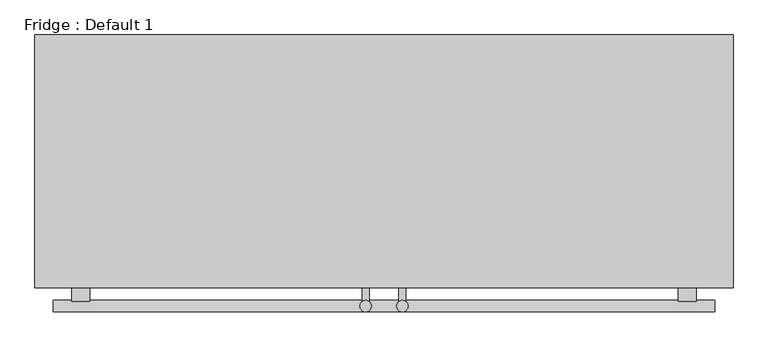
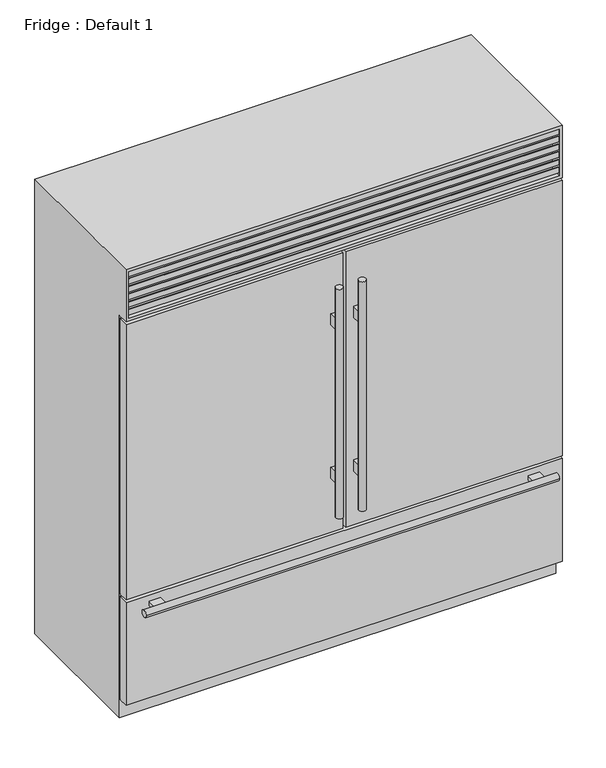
"""IFC4 building model written with IfcOpenShell, lengths in millimetres: proxy geometry, Fridge : Default 1."""

import ifcopenshell
import ifcopenshell.guid

model = None  # the IFC model being written
_history = None  # IfcOwnerHistory: only IFC2X3 demands one
_inside = {}  # id of a spatial element -> (the spatial element, [elements in it])
_under = {}  # id of a project, library or spatial element -> (it, [spatial elements below it])
_declared = {}  # id of a project -> (the project, [libraries it declares])
_typed = {}  # id of a type object -> (the type object, [elements of that type])
_made_of = {}  # id of a material, layer set ... -> (it, [elements and type objects made of it])


def new_model(schema):
    """Start an empty IFC model of exactly this schema.

    Asked for "IFC4X3", IfcOpenShell would pick the latest addendum, in which some entities
    have other attributes; the version numbers below select the first issue.
    IFC2X3 requires an IfcOwnerHistory on every rooted entity: one is made here for all.
    """
    global model, _history
    if schema == "IFC4X3":
        model = ifcopenshell.file(schema_version=(4, 3, 0, 0))
    else:
        model = ifcopenshell.file(schema=schema)
    _inside.clear()
    _under.clear()
    _declared.clear()
    _typed.clear()
    _made_of.clear()
    _history = None
    if model.schema == "IFC2X3":
        org = make("IfcOrganization", Name="unknown")
        user = make(
            "IfcPersonAndOrganization",
            ThePerson=make("IfcPerson", FamilyName="unknown"),
            TheOrganization=org,
        )
        app = make(
            "IfcApplication",
            ApplicationDeveloper=org,
            Version="unknown",
            ApplicationFullName="unknown",
            ApplicationIdentifier="unknown",
        )
        _history = make(
            "IfcOwnerHistory",
            OwningUser=user,
            OwningApplication=app,
            ChangeAction="ADDED",
            CreationDate=0,
        )
    return model


def make(cls, **values):
    """One entity of the class cls with the attributes given. An attribute that is None is left unset."""
    return model.create_entity(
        cls, **{name: value for name, value in values.items() if value is not None}
    )


def rooted(cls, **values):
    """An entity with a GlobalId (a new one), such as an element, a storey or a relation."""
    return make(cls, GlobalId=ifcopenshell.guid.new(), OwnerHistory=_history, **values)


def si_unit(unit_type, name, prefix=None):
    """IfcSIUnit, for example si_unit("LENGTHUNIT", "METRE", prefix="MILLI")."""
    return make("IfcSIUnit", UnitType=unit_type, Prefix=prefix, Name=name)


def assignment(units):
    """IfcUnitAssignment: the units of a project."""
    return None if units is None else make("IfcUnitAssignment", Units=units)


def point(xyz):
    """IfcCartesianPoint."""
    return None if xyz is None else make("IfcCartesianPoint", Coordinates=xyz)


def direction(xyz):
    """IfcDirection."""
    return None if xyz is None else make("IfcDirection", DirectionRatios=xyz)


def frame(location, z_axis=None, x_axis=None):
    """IfcAxis2Placement3D, a coordinate frame: its origin and axes. An axis left out is left unset."""
    return make(
        "IfcAxis2Placement3D",
        Location=point(location),
        Axis=direction(z_axis),
        RefDirection=direction(x_axis),
    )


def origin():
    """The frame at (0, 0, 0) with its axes left unset."""
    return frame((0.0, 0.0, 0.0))


def place(relative_to, where):
    """IfcLocalPlacement: puts the frame where relative to a parent placement (None: the world)."""
    return make(
        "IfcLocalPlacement", PlacementRelTo=relative_to, RelativePlacement=where
    )


def context(
    kind, dimensions, precision=None, world=None, true_north=None, identifier=None
):
    """IfcGeometricRepresentationContext, for example the 3D "Model" context."""
    return make(
        "IfcGeometricRepresentationContext",
        ContextIdentifier=identifier,
        ContextType=kind,
        CoordinateSpaceDimension=dimensions,
        Precision=precision,
        WorldCoordinateSystem=world,
        TrueNorth=true_north,
    )


def project(units=None, contexts=None):
    """IfcProject with its units and contexts."""
    return rooted(
        "IfcProject",
        Name="project",
        RepresentationContexts=contexts,
        UnitsInContext=assignment(units),
    )


def spatial(cls, under=None, at=None, **own):
    """A site, building, storey or space (cls), placed at a placement, below another one or the project."""
    s = rooted(cls, ObjectPlacement=at, **own)
    if under is not None:
        _under.setdefault(under.id(), (under, []))[1].append(s)
    return s


def polyline(points):
    """IfcPolyline through the points."""
    return make("IfcPolyline", Points=[point(p) for p in points])


def circle_curve(where, radius):
    """IfcCircle in the frame where."""
    return make("IfcCircle", Position=where, Radius=radius)


def ellipse_curve(where, semi_axis1, semi_axis2):
    """IfcEllipse in the frame where."""
    return make(
        "IfcEllipse", Position=where, SemiAxis1=semi_axis1, SemiAxis2=semi_axis2
    )


def outline(outer, holes=None, kind="AREA"):
    """IfcArbitraryClosedProfileDef: a profile drawn as a closed curve; with holes, ...WithVoids."""
    if holes is None:
        return make("IfcArbitraryClosedProfileDef", ProfileType=kind, OuterCurve=outer)
    return make(
        "IfcArbitraryProfileDefWithVoids",
        ProfileType=kind,
        OuterCurve=outer,
        InnerCurves=holes,
    )


def extrude(swept, where, along, depth):
    """IfcExtrudedAreaSolid: the profile swept, set in the frame where, extruded along a direction by depth."""
    return make(
        "IfcExtrudedAreaSolid",
        SweptArea=swept,
        Position=where,
        ExtrudedDirection=direction(along),
        Depth=depth,
    )


def faces_of(points, faces, orient=None, outer=None):
    """IfcFace entities. A face is a list of loops; a loop is a list of indices into points, from 0.

    orient and outer hold one flag for each loop. By default every Orientation is true, the
    first loop of a face is its IfcFaceOuterBound and the others are IfcFaceBound.
    """
    made = []
    for i, loops in enumerate(faces):
        bounds = []
        for j, loop in enumerate(loops):
            is_outer = j == 0 if outer is None else outer[i][j]
            bounds.append(
                make(
                    "IfcFaceOuterBound" if is_outer else "IfcFaceBound",
                    Bound=make("IfcPolyLoop", Polygon=[points[k] for k in loop]),
                    Orientation=True if orient is None else orient[i][j],
                )
            )
        made.append(make("IfcFace", Bounds=bounds))
    return made


def faceted_brep(points, faces, orient=None, outer=None, voids=None):
    """IfcFacetedBrep: a solid bounded by flat faces; with voids (closed shells), ...WithVoids."""
    shared = [point(p) for p in points]
    hull = make("IfcClosedShell", CfsFaces=faces_of(shared, faces, orient, outer))
    if voids is None:
        return make("IfcFacetedBrep", Outer=hull)
    return make(
        "IfcFacetedBrepWithVoids",
        Outer=hull,
        Voids=[
            make(cls, CfsFaces=faces_of(shared, fs, o, b)) for cls, fs, o, b in voids
        ],
    )


def shape(context_of_items, identifier, shape_type, items):
    """IfcShapeRepresentation: the items that make up one representation, for example the "Body"."""
    return make(
        "IfcShapeRepresentation",
        ContextOfItems=context_of_items,
        RepresentationIdentifier=identifier,
        RepresentationType=shape_type,
        Items=items,
    )


def source(mapping_origin, context_of_items, identifier, shape_type, items):
    """IfcRepresentationMap: a shape defined once, which mapped items show again and again."""
    return make(
        "IfcRepresentationMap",
        MappingOrigin=mapping_origin,
        MappedRepresentation=shape(context_of_items, identifier, shape_type, items),
    )


def transform(
    local_origin,
    x_axis=None,
    y_axis=None,
    z_axis=None,
    scale=None,
    scale2=None,
    scale3=None,
    uniform=True,
):
    """IfcCartesianTransformationOperator3D, or its non-uniform kind. x_axis, y_axis, z_axis: its Axis1, 2, 3."""
    if uniform:
        return make(
            "IfcCartesianTransformationOperator3D",
            Axis1=direction(x_axis),
            Axis2=direction(y_axis),
            LocalOrigin=point(local_origin),
            Scale=scale,
            Axis3=direction(z_axis),
        )
    return make(
        "IfcCartesianTransformationOperator3DnonUniform",
        Axis1=direction(x_axis),
        Axis2=direction(y_axis),
        LocalOrigin=point(local_origin),
        Scale=scale,
        Axis3=direction(z_axis),
        Scale2=scale2,
        Scale3=scale3,
    )


def mapped(mapping_source, mapping_target):
    """IfcMappedItem: shows the shape of a source again, moved by a transform."""
    return make(
        "IfcMappedItem", MappingSource=mapping_source, MappingTarget=mapping_target
    )


def made_of(thing, what):
    """Note that an element or type object is made of a material, layer set ...; save() writes the relation."""
    if what is not None:
        _made_of.setdefault(what.id(), (what, []))[1].append(thing)
    return thing


def element(
    cls,
    number,
    at=None,
    inside=None,
    cuts=None,
    type_object=None,
    material=None,
    context=None,
    identifier="Body",
    shape_type=None,
    held_by="IfcProductDefinitionShape",
    body=None,
    shapes=None,
    **own,
):
    """One element of the class cls, such as IfcWall. Its Tag is "e" and its number.

    at: its placement. inside: the storey or other place that contains it. cuts: it is an
    opening in that element (IfcRelVoidsElement). A single representation is given by context,
    identifier, shape_type and body (its items); several are given by shapes. held_by: the class
    of the entity that holds the representations. save() writes the other relations.
    """
    e = rooted(cls, Tag="e%d" % number, ObjectPlacement=at, **own)
    if body is not None:
        shapes = [shape(context, identifier, shape_type, body)]
    if shapes is not None:
        e.Representation = make(held_by, Representations=shapes)
    if inside is not None:
        _inside.setdefault(inside.id(), (inside, []))[1].append(e)
    if cuts is not None:
        rooted(
            "IfcRelVoidsElement", RelatingBuildingElement=cuts, RelatedOpeningElement=e
        )
    if type_object is not None:
        _typed.setdefault(type_object.id(), (type_object, []))[1].append(e)
    return made_of(e, material)


def aggregate(whole, parts):
    """IfcRelAggregates: a whole, such as a stair, and the parts it consists of."""
    return rooted("IfcRelAggregates", RelatingObject=whole, RelatedObjects=parts)


def save(model, path):
    """Write the relations noted so far, then the file.

    IfcRelAggregates (storeys below a building ...), IfcRelContainedInSpatialStructure (elements
    in a storey), IfcRelDefinesByType, IfcRelAssociatesMaterial and IfcRelDeclares: one each for
    every whole, place, type object, material and project.
    """
    for whole, parts in _under.values():
        aggregate(whole, parts)
    for where, things in _inside.values():
        rooted(
            "IfcRelContainedInSpatialStructure",
            RelatedElements=things,
            RelatingStructure=where,
        )
    for kind, things in _typed.values():
        rooted("IfcRelDefinesByType", RelatedObjects=things, RelatingType=kind)
    for what, things in _made_of.values():
        rooted("IfcRelAssociatesMaterial", RelatedObjects=things, RelatingMaterial=what)
    for by, libraries in _declared.values():
        rooted("IfcRelDeclares", RelatingContext=by, RelatedDefinitions=libraries)
    model.write(path)


def plane_surface(at):
    """IfcPlane: the flat surface through the origin of the frame at, square to its z axis."""
    return make("IfcPlane", Position=at)


def cylinder_surface(at, radius):
    """IfcCylindricalSurface: all points at the distance radius from the z axis of the frame at."""
    return make("IfcCylindricalSurface", Position=at, Radius=radius)


def advanced_brep(points, edges, surfaces, faces):
    """IfcAdvancedBrep: a solid bounded by faces that lie on surfaces and meet in shared edges.

    An edge is (start, end): straight between two places in points (the first is 0);
    or (start, end, curve); or (start, end, curve, False) where it runs against its curve.
    A face is (place in surfaces, loops), or (place, loops, False) where it looks against
    its surface's normal. A loop lists edges by number (the first is 1), with a minus sign
    where the edge is run from its end to its start. The first loop is the outer one.
    """
    corners = [point(p) for p in points]
    vertices = [make("IfcVertexPoint", VertexGeometry=c) for c in corners]
    made = []
    for start, end, *more in edges:
        made.append(
            make(
                "IfcEdgeCurve",
                EdgeStart=vertices[start],
                EdgeEnd=vertices[end],
                EdgeGeometry=more[0] if more else make("IfcPolyline", Points=[corners[start], corners[end]]),
                SameSense=more[1] if len(more) > 1 else True,
            )
        )
    hull = []
    for where, loops, *sense in faces:
        bounds = []
        for j, loop in enumerate(loops):
            ring = [make("IfcOrientedEdge", EdgeElement=made[abs(k) - 1], Orientation=k > 0) for k in loop]
            bounds.append(
                make(
                    "IfcFaceOuterBound" if j == 0 else "IfcFaceBound",
                    Bound=make("IfcEdgeLoop", EdgeList=ring),
                    Orientation=True,
                )
            )
        hull.append(make("IfcAdvancedFace", Bounds=bounds, FaceSurface=surfaces[where], SameSense=sense[0] if sense else True))
    return make("IfcAdvancedBrep", Outer=make("IfcClosedShell", CfsFaces=hull))


def fridge_default_1_46c48ad1(model_context):
    return source(origin(), model_context, "Body", "SolidModel", [
        extrude(outline(polyline([(-968.375, -756.4799962), (-6.35, -756.4799962), (-6.35, -800.9299962), (-968.375, -800.9299962), (-968.375, -756.4799962)])), frame((0.0, 0.0, 584.2), z_axis=(0.0, 0.0, 1.0), x_axis=(1.0, 0.0, 0.0)), (0.0, 0.0, 1.0), 1292.225),
        extrude(outline(polyline([(6.35, -756.4799962), (968.375, -756.4799962), (968.375, -800.9299962), (6.35, -800.9299962), (6.35, -756.4799962)])), frame((0.0, 0.0, 584.2), z_axis=(0.0, 0.0, 1.0), x_axis=(1.0, 0.0, 0.0)), (0.0, 0.0, 1.0), 1292.225),
        extrude(outline(polyline([(-968.375, -756.4799962), (968.375, -756.4799962), (968.375, -800.9299962), (-968.375, -800.9299962), (-968.375, -756.4799962)])), frame((0.0, 0.0, 88.9), z_axis=(0.0, 0.0, 1.0), x_axis=(1.0, 0.0, 0.0)), (0.0, 0.0, 1.0), 482.6),
        faceted_brep([(968.375, -800.9299962, 2133.6), (-968.375, -800.9299962, 2133.6), (-968.375, -800.9299962, 1889.125), (968.375, -800.9299962, 1889.125), (955.675, -800.9299962, 2120.9), (955.675, -800.9299962, 1901.825), (-955.675, -800.9299962, 1901.825), (-955.675, -800.9299962, 2120.9), (968.375, -100.0, 2133.6), (-968.375, -100.0, 2133.6), (-968.375, -100.0, 0.0), (-968.375, -750.1299962, 0.0), (-968.375, -750.1299962, 1889.125), (968.375, -750.1299962, 1889.125), (968.375, -750.1299962, 0.0), (968.375, -100.0, 0.0), (-955.675, -750.1299962, 2120.9), (955.675, -750.1299962, 2120.9), (-955.675, -750.1299962, 1901.825), (955.675, -750.1299962, 1901.825)], [[[0, 1, 2, 3], [4, 5, 6, 7]], [[1, 0, 8, 9]], [[2, 1, 9, 10, 11, 12]], [[3, 2, 12, 13]], [[8, 0, 3, 13, 14, 15]], [[4, 7, 16, 17]], [[7, 6, 18, 16]], [[6, 5, 19, 18]], [[5, 4, 17, 19]], [[15, 14, 11, 10]], [[9, 8, 15, 10]], [[17, 16, 18, 19]], [[11, 14, 13, 12]]]),
        extrude(outline(polyline([(-750.1299962, 1901.825), (-797.7549962, 1914.5860803), (-797.7549962, 1939.9860803), (-794.5799962, 1939.9860803), (-794.5799962, 1917.1368938), (-750.1299962, 1905.2265522), (-750.1299962, 1901.825)])), frame((-955.675, 0.0, 0.0), z_axis=(1.0, 0.0, 0.0), x_axis=(0.0, 1.0, 0.0)), (0.0, 0.0, 1.0), 1911.35),
        extrude(outline(polyline([(-750.1299962, 1938.0077839), (-797.7549962, 1950.7688642), (-797.7549962, 1976.1688642), (-794.5799962, 1976.1688642), (-794.5799962, 1953.3196777), (-750.1299962, 1941.4093361), (-750.1299962, 1938.0077839)])), frame((-955.675, 0.0, 0.0), z_axis=(1.0, 0.0, 0.0), x_axis=(0.0, 1.0, 0.0)), (0.0, 0.0, 1.0), 1911.35),
        extrude(outline(polyline([(-750.1299962, 1974.1905679), (-797.7549962, 1986.9516482), (-797.7549962, 2012.3516482), (-794.5799962, 2012.3516482), (-794.5799962, 1989.5024616), (-750.1299962, 1977.59212), (-750.1299962, 1974.1905679)])), frame((-955.675, 0.0, 0.0), z_axis=(1.0, 0.0, 0.0), x_axis=(0.0, 1.0, 0.0)), (0.0, 0.0, 1.0), 1911.35),
        extrude(outline(polyline([(-750.1299962, 2010.3733518), (-797.7549962, 2023.1344321), (-797.7549962, 2048.5344321), (-794.5799962, 2048.5344321), (-794.5799962, 2025.6852456), (-750.1299962, 2013.774904), (-750.1299962, 2010.3733518)])), frame((-955.675, 0.0, 0.0), z_axis=(1.0, 0.0, 0.0), x_axis=(0.0, 1.0, 0.0)), (0.0, 0.0, 1.0), 1911.35),
        extrude(outline(polyline([(-750.1299962, 2046.5561358), (-797.7549962, 2059.3172161), (-797.7549962, 2084.7172161), (-794.5799962, 2084.7172161), (-794.5799962, 2061.8680295), (-750.1299962, 2049.9576879), (-750.1299962, 2046.5561358)])), frame((-955.675, 0.0, 0.0), z_axis=(1.0, 0.0, 0.0), x_axis=(0.0, 1.0, 0.0)), (0.0, 0.0, 1.0), 1911.35),
        extrude(outline(polyline([(-750.1299962, 2082.7389197), (-797.7549962, 2095.5), (-797.7549962, 2120.9), (-794.5799962, 2120.9), (-794.5799962, 2098.0508135), (-750.1299962, 2086.1404719), (-750.1299962, 2082.7389197)])), frame((-955.675, 0.0, 0.0), z_axis=(1.0, 0.0, 0.0), x_axis=(0.0, 1.0, 0.0)), (0.0, 0.0, 1.0), 1911.35),
        advanced_brep(
        [(-962.025, -750.1299962, 565.15), (-962.025, -756.4799962, 565.15), (-962.025, -756.4799962, 95.25), (-962.025, -750.1299962, 95.25), (-965.2, -756.4799962, 568.325), (-965.2, -750.1299962, 568.325), (-965.2, -750.1299962, 92.075), (-965.2, -756.4799962, 92.075), (962.025, -756.4799962, 95.25), (962.025, -750.1299962, 95.25), (965.2, -750.1299962, 92.075), (965.2, -756.4799962, 92.075), (962.025, -756.4799962, 565.15), (962.025, -750.1299962, 565.15), (965.2, -750.1299962, 568.325), (965.2, -756.4799962, 568.325)],
        [
            (0, 1),
            (1, 2),
            (2, 3),
            (3, 0),
            (4, 5, ellipse_curve(frame((-965.2, -753.3049962, 568.325), z_axis=(-0.7071067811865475, 0.0, -0.7071067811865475), x_axis=(-0.7071067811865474, 0.0, 0.7071067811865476)), 4.4901281, 3.175)),
            (5, 6),
            (6, 7, ellipse_curve(frame((-965.2, -753.3049962, 92.075), z_axis=(-0.7071067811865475, 0.0, 0.7071067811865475), x_axis=(0.7071067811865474, 0.0, 0.7071067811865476)), 4.4901281, 3.175)),
            (7, 4),
            (2, 8),
            (8, 9),
            (9, 3),
            (6, 10),
            (10, 11, ellipse_curve(frame((965.2, -753.3049962, 92.075), z_axis=(-0.7071067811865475, 0.0, -0.7071067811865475), x_axis=(-0.7071067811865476, 0.0, 0.7071067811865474)), 4.4901281, 3.175)),
            (11, 7),
            (8, 12),
            (12, 13),
            (13, 9),
            (10, 14),
            (14, 15, ellipse_curve(frame((965.2, -753.3049962, 568.325), z_axis=(0.7071067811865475, 0.0, -0.7071067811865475), x_axis=(-0.7071067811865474, 0.0, -0.7071067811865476)), 4.4901281, 3.175)),
            (15, 11),
            (12, 1),
            (0, 13),
            (5, 14),
            (4, 15),
        ],
        [
            plane_surface(frame((-962.025, -756.4799962, 565.15), z_axis=(1.0, 0.0, 0.0), x_axis=(0.0, 0.0, -1.0))),
            cylinder_surface(frame((-965.2, -753.3049962, 571.5), z_axis=(0.0, 0.0, 1.0), x_axis=(0.0, -1.0, 0.0)), 3.175),
            plane_surface(frame((-962.025, -756.4799962, 95.25), z_axis=(0.0, 0.0, 1.0), x_axis=(1.0, 0.0, 0.0))),
            cylinder_surface(frame((-968.375, -753.3049962, 92.075), z_axis=(-1.0, 0.0, 0.0), x_axis=(0.0, -1.0, 0.0)), 3.175),
            plane_surface(frame((962.025, -756.4799962, 95.25), z_axis=(-1.0, 0.0, 0.0), x_axis=(0.0, 0.0, 1.0))),
            cylinder_surface(frame((965.2, -753.3049962, 88.9), z_axis=(0.0, 0.0, -1.0), x_axis=(0.0, -1.0, 0.0)), 3.175),
            plane_surface(frame((962.025, -756.4799962, 565.15), z_axis=(0.0, 0.0, -1.0), x_axis=(-1.0, 0.0, 0.0))),
            plane_surface(frame((962.025, -750.1299962, 565.15), z_axis=(0.0, 1.0, 0.0), x_axis=(-1.0, 0.0, 0.0))),
            cylinder_surface(frame((968.375, -753.3049962, 568.325), z_axis=(1.0, 0.0, 0.0), x_axis=(0.0, -1.0, 0.0)), 3.175),
            plane_surface(frame((965.2, -756.4799962, 568.325), z_axis=(0.0, -1.0, 0.0), x_axis=(-1.0, 0.0, 0.0))),
        ],
        [
            (0, [[1, 2, 3, 4]]),
            (1, [[5, 6, 7, 8]]),
            (2, [[-3, 9, 10, 11]]),
            (3, [[-7, 12, 13, 14]]),
            (4, [[-10, 15, 16, 17]]),
            (5, [[-13, 18, 19, 20]]),
            (6, [[-16, 21, -1, 22]]),
            (7, [[23, -18, -12, -6], [-11, -17, -22, -4]]),
            (8, [[-19, -23, -5, 24]]),
            (9, [[-14, -20, -24, -8], [-21, -15, -9, -2]]),
        ],
    ),
        advanced_brep(
        [(12.7, -750.1299962, 1870.075), (12.7, -756.4799962, 1870.075), (12.7, -756.4799962, 590.55), (12.7, -750.1299962, 590.55), (9.525, -756.4799962, 1873.25), (9.525, -750.1299962, 1873.25), (9.525, -750.1299962, 587.375), (9.525, -756.4799962, 587.375), (962.025, -756.4799962, 590.55), (962.025, -750.1299962, 590.55), (965.2, -750.1299962, 587.375), (965.2, -756.4799962, 587.375), (962.025, -756.4799962, 1870.075), (962.025, -750.1299962, 1870.075), (965.2, -750.1299962, 1873.25), (965.2, -756.4799962, 1873.25)],
        [
            (0, 1),
            (1, 2),
            (2, 3),
            (3, 0),
            (4, 5, ellipse_curve(frame((9.525, -753.3049962, 1873.25), z_axis=(-0.7071067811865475, 0.0, -0.7071067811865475), x_axis=(-0.7071067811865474, 0.0, 0.7071067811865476)), 4.4901281, 3.175)),
            (5, 6),
            (6, 7, ellipse_curve(frame((9.525, -753.3049962, 587.375), z_axis=(-0.7071067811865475, 0.0, 0.7071067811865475), x_axis=(0.7071067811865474, 0.0, 0.7071067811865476)), 4.4901281, 3.175)),
            (7, 4),
            (2, 8),
            (8, 9),
            (9, 3),
            (6, 10),
            (10, 11, ellipse_curve(frame((965.2, -753.3049962, 587.375), z_axis=(-0.7071067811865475, 0.0, -0.7071067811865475), x_axis=(-0.7071067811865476, 0.0, 0.7071067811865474)), 4.4901281, 3.175)),
            (11, 7),
            (8, 12),
            (12, 13),
            (13, 9),
            (10, 14),
            (14, 15, ellipse_curve(frame((965.2, -753.3049962, 1873.25), z_axis=(0.7071067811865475, 0.0, -0.7071067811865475), x_axis=(-0.7071067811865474, 0.0, -0.7071067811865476)), 4.4901281, 3.175)),
            (15, 11),
            (12, 1),
            (0, 13),
            (5, 14),
            (4, 15),
        ],
        [
            plane_surface(frame((12.7, -756.4799962, 1870.075), z_axis=(1.0, 0.0, 0.0), x_axis=(0.0, 0.0, -1.0))),
            cylinder_surface(frame((9.525, -753.3049962, 1876.425), z_axis=(0.0, 0.0, 1.0), x_axis=(0.0, -1.0, 0.0)), 3.175),
            plane_surface(frame((12.7, -756.4799962, 590.55), z_axis=(0.0, 0.0, 1.0), x_axis=(1.0, 0.0, 0.0))),
            cylinder_surface(frame((6.35, -753.3049962, 587.375), z_axis=(-1.0, 0.0, 0.0), x_axis=(0.0, -1.0, 0.0)), 3.175),
            plane_surface(frame((962.025, -756.4799962, 590.55), z_axis=(-1.0, 0.0, 0.0), x_axis=(0.0, 0.0, 1.0))),
            cylinder_surface(frame((965.2, -753.3049962, 584.2), z_axis=(0.0, 0.0, -1.0), x_axis=(0.0, -1.0, 0.0)), 3.175),
            plane_surface(frame((962.025, -756.4799962, 1870.075), z_axis=(0.0, 0.0, -1.0), x_axis=(-1.0, 0.0, 0.0))),
            plane_surface(frame((962.025, -750.1299962, 1870.075), z_axis=(0.0, 1.0, 0.0), x_axis=(-1.0, 0.0, 0.0))),
            cylinder_surface(frame((968.375, -753.3049962, 1873.25), z_axis=(1.0, 0.0, 0.0), x_axis=(0.0, -1.0, 0.0)), 3.175),
            plane_surface(frame((965.2, -756.4799962, 1873.25), z_axis=(0.0, -1.0, 0.0), x_axis=(-1.0, 0.0, 0.0))),
        ],
        [
            (0, [[1, 2, 3, 4]]),
            (1, [[5, 6, 7, 8]]),
            (2, [[-3, 9, 10, 11]]),
            (3, [[-7, 12, 13, 14]]),
            (4, [[-10, 15, 16, 17]]),
            (5, [[-13, 18, 19, 20]]),
            (6, [[-16, 21, -1, 22]]),
            (7, [[23, -18, -12, -6], [-11, -17, -22, -4]]),
            (8, [[-19, -23, -5, 24]]),
            (9, [[-14, -20, -24, -8], [-21, -15, -9, -2]]),
        ],
    ),
        advanced_brep(
        [(-962.025, -750.1299962, 1870.075), (-962.025, -756.4799962, 1870.075), (-962.025, -756.4799962, 590.55), (-962.025, -750.1299962, 590.55), (-965.2, -756.4799962, 1873.25), (-965.2, -750.1299962, 1873.25), (-965.2, -750.1299962, 587.375), (-965.2, -756.4799962, 587.375), (-12.7, -756.4799962, 590.55), (-12.7, -750.1299962, 590.55), (-9.525, -750.1299962, 587.375), (-9.525, -756.4799962, 587.375), (-12.7, -756.4799962, 1870.075), (-12.7, -750.1299962, 1870.075), (-9.525, -750.1299962, 1873.25), (-9.525, -756.4799962, 1873.25)],
        [
            (0, 1),
            (1, 2),
            (2, 3),
            (3, 0),
            (4, 5, ellipse_curve(frame((-965.2, -753.3049962, 1873.25), z_axis=(-0.7071067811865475, 0.0, -0.7071067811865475), x_axis=(-0.7071067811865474, 0.0, 0.7071067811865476)), 4.4901281, 3.175)),
            (5, 6),
            (6, 7, ellipse_curve(frame((-965.2, -753.3049962, 587.375), z_axis=(-0.7071067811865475, 0.0, 0.7071067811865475), x_axis=(0.7071067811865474, 0.0, 0.7071067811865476)), 4.4901281, 3.175)),
            (7, 4),
            (2, 8),
            (8, 9),
            (9, 3),
            (6, 10),
            (10, 11, ellipse_curve(frame((-9.525, -753.3049962, 587.375), z_axis=(-0.7071067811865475, 0.0, -0.7071067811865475), x_axis=(-0.7071067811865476, 0.0, 0.7071067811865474)), 4.4901281, 3.175)),
            (11, 7),
            (8, 12),
            (12, 13),
            (13, 9),
            (10, 14),
            (14, 15, ellipse_curve(frame((-9.525, -753.3049962, 1873.25), z_axis=(0.7071067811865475, 0.0, -0.7071067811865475), x_axis=(-0.7071067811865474, 0.0, -0.7071067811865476)), 4.4901281, 3.175)),
            (15, 11),
            (12, 1),
            (0, 13),
            (5, 14),
            (4, 15),
        ],
        [
            plane_surface(frame((-962.025, -756.4799962, 1870.075), z_axis=(1.0, 0.0, 0.0), x_axis=(0.0, 0.0, -1.0))),
            cylinder_surface(frame((-965.2, -753.3049962, 1876.425), z_axis=(0.0, 0.0, 1.0), x_axis=(0.0, -1.0, 0.0)), 3.175),
            plane_surface(frame((-962.025, -756.4799962, 590.55), z_axis=(0.0, 0.0, 1.0), x_axis=(1.0, 0.0, 0.0))),
            cylinder_surface(frame((-968.375, -753.3049962, 587.375), z_axis=(-1.0, 0.0, 0.0), x_axis=(0.0, -1.0, 0.0)), 3.175),
            plane_surface(frame((-12.7, -756.4799962, 590.55), z_axis=(-1.0, 0.0, 0.0), x_axis=(0.0, 0.0, 1.0))),
            cylinder_surface(frame((-9.525, -753.3049962, 584.2), z_axis=(0.0, 0.0, -1.0), x_axis=(0.0, -1.0, 0.0)), 3.175),
            plane_surface(frame((-12.7, -756.4799962, 1870.075), z_axis=(0.0, 0.0, -1.0), x_axis=(-1.0, 0.0, 0.0))),
            plane_surface(frame((-12.7, -750.1299962, 1870.075), z_axis=(0.0, 1.0, 0.0), x_axis=(-1.0, 0.0, 0.0))),
            cylinder_surface(frame((-6.35, -753.3049962, 1873.25), z_axis=(1.0, 0.0, 0.0), x_axis=(0.0, -1.0, 0.0)), 3.175),
            plane_surface(frame((-9.525, -756.4799962, 1873.25), z_axis=(0.0, -1.0, 0.0), x_axis=(-1.0, 0.0, 0.0))),
        ],
        [
            (0, [[1, 2, 3, 4]]),
            (1, [[5, 6, 7, 8]]),
            (2, [[-3, 9, 10, 11]]),
            (3, [[-7, 12, 13, 14]]),
            (4, [[-10, 15, 16, 17]]),
            (5, [[-13, 18, 19, 20]]),
            (6, [[-16, 21, -1, 22]]),
            (7, [[23, -18, -12, -6], [-11, -17, -22, -4]]),
            (8, [[-19, -23, -5, 24]]),
            (9, [[-14, -20, -24, -8], [-21, -15, -9, -2]]),
        ],
    ),
        advanced_brep(
        [(-815.975, -800.9299962, 542.925), (-815.975, -800.9299962, 523.875), (-866.775, -800.9299962, 523.875), (-866.775, -800.9299962, 542.925), (815.975, -800.9299962, 542.925), (866.775, -800.9299962, 542.925), (866.775, -800.9299962, 523.875), (815.975, -800.9299962, 523.875), (-815.975, -839.404192, 542.925), (-815.975, -836.229192, 533.4), (-815.975, -839.404192, 523.875), (-866.775, -839.404192, 523.875), (-866.775, -836.229192, 533.4), (-866.775, -839.404192, 542.925), (815.975, -839.404192, 542.925), (866.775, -839.404192, 542.925), (866.775, -836.229192, 533.4), (866.775, -839.404192, 523.875), (815.975, -839.404192, 523.875), (815.975, -836.229192, 533.4), (917.575, -867.979192, 533.4), (917.575, -836.229192, 533.4), (-917.575, -867.979192, 533.4), (-917.575, -836.229192, 533.4)],
        [
            (0, 1),
            (1, 2),
            (2, 3),
            (3, 0),
            (4, 5),
            (5, 6),
            (6, 7),
            (7, 4),
            (0, 8),
            (8, 9, circle_curve(frame((-815.975, -852.104192, 533.4), z_axis=(-1.0, 0.0, 0.0), x_axis=(0.0, 1.0, 0.0)), 15.875)),
            (9, 10, circle_curve(frame((-815.975, -852.104192, 533.4), z_axis=(-1.0, 0.0, 0.0), x_axis=(0.0, 1.0, 0.0)), 15.875)),
            (10, 1),
            (10, 11),
            (11, 2),
            (11, 12, circle_curve(frame((-866.775, -852.104192, 533.4), z_axis=(1.0, 0.0, 0.0), x_axis=(0.0, 1.0, 0.0)), 15.875)),
            (12, 13, circle_curve(frame((-866.775, -852.104192, 533.4), z_axis=(1.0, 0.0, 0.0), x_axis=(0.0, 1.0, 0.0)), 15.875)),
            (13, 3),
            (13, 8),
            (4, 14),
            (14, 15),
            (15, 5),
            (15, 16, circle_curve(frame((866.775, -852.104192, 533.4), z_axis=(-1.0, 0.0, 0.0), x_axis=(0.0, 1.0, 0.0)), 15.875)),
            (16, 17, circle_curve(frame((866.775, -852.104192, 533.4), z_axis=(-1.0, 0.0, 0.0), x_axis=(0.0, 1.0, 0.0)), 15.875)),
            (17, 6),
            (17, 18),
            (18, 7),
            (18, 19, circle_curve(frame((815.975, -852.104192, 533.4), z_axis=(1.0, 0.0, 0.0), x_axis=(0.0, 1.0, 0.0)), 15.875)),
            (19, 14, circle_curve(frame((815.975, -852.104192, 533.4), z_axis=(1.0, 0.0, 0.0), x_axis=(0.0, 1.0, 0.0)), 15.875)),
            (20, 21, circle_curve(frame((917.575, -852.104192, 533.4), z_axis=(1.0, 0.0, 0.0), x_axis=(0.0, 1.0, 0.0)), 15.875)),
            (21, 20, circle_curve(frame((917.575, -852.104192, 533.4), z_axis=(1.0, 0.0, 0.0), x_axis=(0.0, 1.0, 0.0)), 15.875)),
            (22, 23, circle_curve(frame((-917.575, -852.104192, 533.4), z_axis=(-1.0, 0.0, 0.0), x_axis=(0.0, 1.0, 0.0)), 15.875)),
            (23, 22, circle_curve(frame((-917.575, -852.104192, 533.4), z_axis=(-1.0, 0.0, 0.0), x_axis=(0.0, 1.0, 0.0)), 15.875)),
            (20, 22),
            (23, 12),
            (9, 19),
            (16, 21),
        ],
        [
            plane_surface(frame((-815.975, -800.9299962, 542.925), z_axis=(0.0, 1.0, 0.0), x_axis=(0.0, 0.0, -1.0))),
            plane_surface(frame((-815.975, -800.9299962, 542.925), z_axis=(1.0, 0.0, 0.0), x_axis=(0.0, -1.0, 0.0))),
            plane_surface(frame((-815.975, -800.9299962, 523.875), z_axis=(0.0, 0.0, -1.0), x_axis=(0.0, -1.0, 0.0))),
            plane_surface(frame((-866.775, -800.9299962, 523.875), z_axis=(-1.0, 0.0, 0.0), x_axis=(0.0, -1.0, 0.0))),
            plane_surface(frame((-866.775, -800.9299962, 542.925), z_axis=(0.0, 0.0, 1.0), x_axis=(0.0, -1.0, 0.0))),
            plane_surface(frame((815.975, -800.9299962, 542.925), z_axis=(0.0, 0.0, 1.0), x_axis=(0.0, -1.0, 0.0))),
            plane_surface(frame((866.775, -800.9299962, 542.925), z_axis=(1.0, 0.0, 0.0), x_axis=(0.0, -1.0, 0.0))),
            plane_surface(frame((866.775, -800.9299962, 523.875), z_axis=(0.0, 0.0, -1.0), x_axis=(0.0, -1.0, 0.0))),
            plane_surface(frame((815.975, -800.9299962, 523.875), z_axis=(-1.0, 0.0, 0.0), x_axis=(0.0, -1.0, 0.0))),
            plane_surface(frame((917.575, -836.229192, 533.4), z_axis=(1.0, 0.0, 0.0), x_axis=(0.0, 0.0, 1.0))),
            plane_surface(frame((-917.575, -836.229192, 533.4), z_axis=(-1.0, 0.0, 0.0), x_axis=(0.0, 0.0, -1.0))),
            cylinder_surface(frame((-917.575, -852.104192, 533.4), z_axis=(1.0, 0.0, 0.0), x_axis=(0.0, 1.0, 0.0)), 15.875),
        ],
        [
            (0, [[1, 2, 3, 4]]),
            (0, [[5, 6, 7, 8]]),
            (1, [[-1, 9, 10, 11, 12]]),
            (2, [[-2, -12, 13, 14]]),
            (3, [[-3, -14, 15, 16, 17]]),
            (4, [[-4, -17, 18, -9]]),
            (5, [[-5, 19, 20, 21]]),
            (6, [[-6, -21, 22, 23, 24]]),
            (7, [[-7, -24, 25, 26]]),
            (8, [[-8, -26, 27, 28, -19]]),
            (9, [[29, 30]]),
            (10, [[31, 32]]),
            (11, [[-29, 33, -32, 34, -15, -13, -11, 35, -27, -25, -23, 36]]),
            (11, [[-30, -36, -22, -20, -28, -35, -10, -18, -16, -34, -31, -33]]),
        ],
    ),
        advanced_brep(
        [(34.925, -852.104192, 1762.125), (66.675, -852.104192, 1762.125), (34.925, -852.104192, 685.8), (66.675, -852.104192, 685.8), (60.325, -839.404192, 1558.925), (60.325, -839.404192, 1609.725), (41.275, -839.404192, 1609.725), (41.275, -839.404192, 1558.925), (60.325, -839.404192, 838.2), (60.325, -839.404192, 889.0), (41.275, -839.404192, 889.0), (41.275, -839.404192, 838.2), (60.325, -800.9299962, 1609.725), (60.325, -800.9299962, 1558.925), (41.275, -800.9299962, 1558.925), (41.275, -800.9299962, 1609.725), (60.325, -800.9299962, 889.0), (60.325, -800.9299962, 838.2), (41.275, -800.9299962, 838.2), (41.275, -800.9299962, 889.0)],
        [
            (0, 1, circle_curve(frame((50.8, -852.104192, 1762.125), z_axis=(0.0, 0.0, 1.0), x_axis=(1.0, 0.0, 0.0)), 15.875)),
            (1, 0, circle_curve(frame((50.8, -852.104192, 1762.125), z_axis=(0.0, 0.0, 1.0), x_axis=(1.0, 0.0, 0.0)), 15.875)),
            (2, 3, circle_curve(frame((50.8, -852.104192, 685.8), z_axis=(0.0, 0.0, -1.0), x_axis=(1.0, 0.0, 0.0)), 15.875)),
            (3, 2, circle_curve(frame((50.8, -852.104192, 685.8), z_axis=(0.0, 0.0, -1.0), x_axis=(1.0, 0.0, 0.0)), 15.875)),
            (0, 2),
            (3, 1),
            (4, 5),
            (5, 6, circle_curve(frame((50.8, -852.104192, 1609.725), z_axis=(0.0, 0.0, 1.0), x_axis=(1.0, 0.0, 0.0)), 15.875)),
            (6, 7),
            (7, 4, circle_curve(frame((50.8, -852.104192, 1558.925), z_axis=(0.0, 0.0, -1.0), x_axis=(1.0, 0.0, 0.0)), 15.875)),
            (8, 9),
            (9, 10, circle_curve(frame((50.8, -852.104192, 889.0), z_axis=(0.0, 0.0, 1.0), x_axis=(1.0, 0.0, 0.0)), 15.875)),
            (10, 11),
            (11, 8, circle_curve(frame((50.8, -852.104192, 838.2), z_axis=(0.0, 0.0, -1.0), x_axis=(1.0, 0.0, 0.0)), 15.875)),
            (12, 13),
            (13, 14),
            (14, 15),
            (15, 12),
            (16, 17),
            (17, 18),
            (18, 19),
            (19, 16),
            (12, 5),
            (4, 13),
            (7, 14),
            (6, 15),
            (16, 9),
            (8, 17),
            (11, 18),
            (10, 19),
        ],
        [
            plane_surface(frame((66.675, -852.104192, 1762.125), z_axis=(0.0, 0.0, 1.0), x_axis=(0.0, 1.0, 0.0))),
            plane_surface(frame((66.675, -852.104192, 685.8), z_axis=(0.0, 0.0, -1.0), x_axis=(0.0, -1.0, 0.0))),
            cylinder_surface(frame((50.8, -852.104192, 685.8), z_axis=(0.0, 0.0, 1.0), x_axis=(1.0, 0.0, 0.0)), 15.875),
            plane_surface(frame((60.325, -800.9299962, 1609.725), z_axis=(0.0, 1.0, 0.0), x_axis=(0.0, 0.0, -1.0))),
            plane_surface(frame((60.325, -800.9299962, 1609.725), z_axis=(1.0, 0.0, 0.0), x_axis=(0.0, -1.0, 0.0))),
            plane_surface(frame((60.325, -800.9299962, 1558.925), z_axis=(0.0, 0.0, -1.0), x_axis=(0.0, -1.0, 0.0))),
            plane_surface(frame((41.275, -800.9299962, 1558.925), z_axis=(-1.0, 0.0, 0.0), x_axis=(0.0, -1.0, 0.0))),
            plane_surface(frame((41.275, -800.9299962, 1609.725), z_axis=(0.0, 0.0, 1.0), x_axis=(0.0, -1.0, 0.0))),
            plane_surface(frame((60.325, -800.9299962, 889.0), z_axis=(1.0, 0.0, 0.0), x_axis=(0.0, -1.0, 0.0))),
            plane_surface(frame((60.325, -800.9299962, 838.2), z_axis=(0.0, 0.0, -1.0), x_axis=(0.0, -1.0, 0.0))),
            plane_surface(frame((41.275, -800.9299962, 838.2), z_axis=(-1.0, 0.0, 0.0), x_axis=(0.0, -1.0, 0.0))),
            plane_surface(frame((41.275, -800.9299962, 889.0), z_axis=(0.0, 0.0, 1.0), x_axis=(0.0, -1.0, 0.0))),
        ],
        [
            (0, [[1, 2]]),
            (1, [[3, 4]]),
            (2, [[-1, 5, -4, 6]]),
            (2, [[-2, -6, -3, -5], [7, 8, 9, 10], [11, 12, 13, 14]]),
            (3, [[15, 16, 17, 18]]),
            (3, [[19, 20, 21, 22]]),
            (4, [[-15, 23, -7, 24]]),
            (5, [[-16, -24, -10, 25]]),
            (6, [[-17, -25, -9, 26]]),
            (7, [[-18, -26, -8, -23]]),
            (8, [[-19, 27, -11, 28]]),
            (9, [[-20, -28, -14, 29]]),
            (10, [[-21, -29, -13, 30]]),
            (11, [[-22, -30, -12, -27]]),
        ],
    ),
        advanced_brep(
        [(-41.275, -800.9299962, 1609.725), (-41.275, -800.9299962, 1558.925), (-60.325, -800.9299962, 1558.925), (-60.325, -800.9299962, 1609.725), (-41.275, -800.9299962, 889.0), (-41.275, -800.9299962, 838.2), (-60.325, -800.9299962, 838.2), (-60.325, -800.9299962, 889.0), (-41.275, -839.404192, 1609.725), (-41.275, -839.404192, 1558.925), (-60.325, -839.404192, 1558.925), (-60.325, -839.404192, 1609.725), (-41.275, -839.404192, 889.0), (-41.275, -839.404192, 838.2), (-60.325, -839.404192, 838.2), (-60.325, -839.404192, 889.0), (-66.675, -852.104192, 1762.125), (-34.925, -852.104192, 1762.125), (-66.675, -852.104192, 685.8), (-34.925, -852.104192, 685.8)],
        [
            (0, 1),
            (1, 2),
            (2, 3),
            (3, 0),
            (4, 5),
            (5, 6),
            (6, 7),
            (7, 4),
            (0, 8),
            (8, 9),
            (9, 1),
            (9, 10, circle_curve(frame((-50.8, -852.104192, 1558.925), z_axis=(0.0, 0.0, 1.0), x_axis=(1.0, 0.0, 0.0)), 15.875)),
            (10, 2),
            (10, 11),
            (11, 3),
            (11, 8, circle_curve(frame((-50.8, -852.104192, 1609.725), z_axis=(0.0, 0.0, -1.0), x_axis=(1.0, 0.0, 0.0)), 15.875)),
            (4, 12),
            (12, 13),
            (13, 5),
            (13, 14, circle_curve(frame((-50.8, -852.104192, 838.2), z_axis=(0.0, 0.0, 1.0), x_axis=(1.0, 0.0, 0.0)), 15.875)),
            (14, 6),
            (14, 15),
            (15, 7),
            (15, 12, circle_curve(frame((-50.8, -852.104192, 889.0), z_axis=(0.0, 0.0, -1.0), x_axis=(1.0, 0.0, 0.0)), 15.875)),
            (16, 17, circle_curve(frame((-50.8, -852.104192, 1762.125), z_axis=(0.0, 0.0, 1.0), x_axis=(1.0, 0.0, 0.0)), 15.875)),
            (17, 16, circle_curve(frame((-50.8, -852.104192, 1762.125), z_axis=(0.0, 0.0, 1.0), x_axis=(1.0, 0.0, 0.0)), 15.875)),
            (18, 19, circle_curve(frame((-50.8, -852.104192, 685.8), z_axis=(0.0, 0.0, -1.0), x_axis=(1.0, 0.0, 0.0)), 15.875)),
            (19, 18, circle_curve(frame((-50.8, -852.104192, 685.8), z_axis=(0.0, 0.0, -1.0), x_axis=(1.0, 0.0, 0.0)), 15.875)),
            (16, 18),
            (19, 17),
        ],
        [
            plane_surface(frame((-41.275, -800.9299962, 1609.725), z_axis=(0.0, 1.0, 0.0), x_axis=(0.0, 0.0, -1.0))),
            plane_surface(frame((-41.275, -800.9299962, 1609.725), z_axis=(1.0, 0.0, 0.0), x_axis=(0.0, -1.0, 0.0))),
            plane_surface(frame((-41.275, -800.9299962, 1558.925), z_axis=(0.0, 0.0, -1.0), x_axis=(0.0, -1.0, 0.0))),
            plane_surface(frame((-60.325, -800.9299962, 1558.925), z_axis=(-1.0, 0.0, 0.0), x_axis=(0.0, -1.0, 0.0))),
            plane_surface(frame((-60.325, -800.9299962, 1609.725), z_axis=(0.0, 0.0, 1.0), x_axis=(0.0, -1.0, 0.0))),
            plane_surface(frame((-41.275, -800.9299962, 889.0), z_axis=(1.0, 0.0, 0.0), x_axis=(0.0, -1.0, 0.0))),
            plane_surface(frame((-41.275, -800.9299962, 838.2), z_axis=(0.0, 0.0, -1.0), x_axis=(0.0, -1.0, 0.0))),
            plane_surface(frame((-60.325, -800.9299962, 838.2), z_axis=(-1.0, 0.0, 0.0), x_axis=(0.0, -1.0, 0.0))),
            plane_surface(frame((-60.325, -800.9299962, 889.0), z_axis=(0.0, 0.0, 1.0), x_axis=(0.0, -1.0, 0.0))),
            plane_surface(frame((-34.925, -852.104192, 1762.125), z_axis=(0.0, 0.0, 1.0), x_axis=(0.0, 1.0, 0.0))),
            plane_surface(frame((-34.925, -852.104192, 685.8), z_axis=(0.0, 0.0, -1.0), x_axis=(0.0, -1.0, 0.0))),
            cylinder_surface(frame((-50.8, -852.104192, 685.8), z_axis=(0.0, 0.0, 1.0), x_axis=(1.0, 0.0, 0.0)), 15.875),
        ],
        [
            (0, [[1, 2, 3, 4]]),
            (0, [[5, 6, 7, 8]]),
            (1, [[-1, 9, 10, 11]]),
            (2, [[-2, -11, 12, 13]]),
            (3, [[-3, -13, 14, 15]]),
            (4, [[-4, -15, 16, -9]]),
            (5, [[-5, 17, 18, 19]]),
            (6, [[-6, -19, 20, 21]]),
            (7, [[-7, -21, 22, 23]]),
            (8, [[-8, -23, 24, -17]]),
            (9, [[25, 26]]),
            (10, [[27, 28]]),
            (11, [[-25, 29, -28, 30]]),
            (11, [[-26, -30, -27, -29], [-10, -16, -14, -12], [-18, -24, -22, -20]]),
        ],
    ),
    ])


if __name__ == "__main__":
    model = new_model("IFC4")
    model_context = context("Model", 3, world=origin())
    ifc_project = project(units=[si_unit("LENGTHUNIT", "METRE", prefix="MILLI")], contexts=[model_context])
    site = spatial("IfcSite", under=ifc_project)
    building = spatial("IfcBuilding", under=site)
    placement = place(None, origin())
    fridge_default_1_shape = fridge_default_1_46c48ad1(model_context)
    element("IfcBuildingElementProxy", 1, Name="Fridge : Default 1", ObjectType="Fridge : Default 1", at=placement, inside=building, context=model_context, shape_type="MappedRepresentation", body=[
        mapped(fridge_default_1_shape, transform((0.0, 0.0, 0.0), x_axis=(1.0, 0.0, 0.0), y_axis=(0.0, 1.0, 0.0), z_axis=(0.0, 0.0, 1.0))),
    ])
    save(model, "model.ifc")
